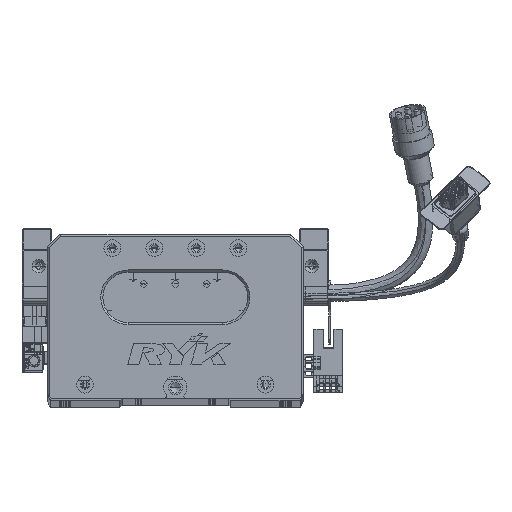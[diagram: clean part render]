
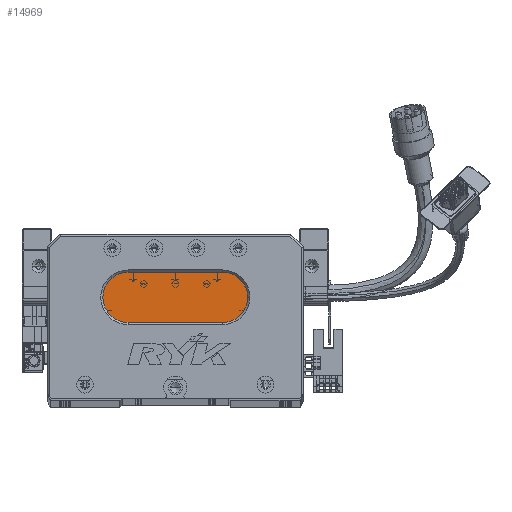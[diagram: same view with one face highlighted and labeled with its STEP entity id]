
A CAD part, top view. The second image highlights one B-rep face of the part: STEP entity #14969.
In plain terms, the highlighted planar face has unit normal (0, 0, 1) as drawn and (0, 0, -1) by its records, which use the part's own axes.
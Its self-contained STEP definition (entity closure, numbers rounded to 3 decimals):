
#3657 = EDGE_CURVE ( 'NONE', #59166, #42769, #17392, .T. ) ;
#14614 = DIRECTION ( 'NONE',  ( -1., 0., 0. ) ) ;
#14969 = ADVANCED_FACE ( 'NONE', ( #82860 ), #24656, .T. ) ;
#15357 = EDGE_CURVE ( 'NONE', #42769, #37127, #94101, .T. ) ;
#17392 = LINE ( 'NONE', #34023, #101901 ) ;
#18816 = AXIS2_PLACEMENT_3D ( 'NONE', #52973, #37747, #22194 ) ;
#18915 = CARTESIAN_POINT ( 'NONE',  ( 26.5, 48., 13. ) ) ;
#19149 = EDGE_CURVE ( 'NONE', #31677, #51722, #47409, .T. ) ;
#22194 = DIRECTION ( 'NONE',  ( -1., 0., 0. ) ) ;
#24656 = PLANE ( 'NONE',  #82692 ) ;
#24742 = DIRECTION ( 'NONE',  ( 0., 0., -1. ) ) ;
#31677 = VERTEX_POINT ( 'NONE', #80535 ) ;
#33005 = DIRECTION ( 'NONE',  ( 1., 0., 0. ) ) ;
#33853 = DIRECTION ( 'NONE',  ( -1., 0., 0. ) ) ;
#34023 = CARTESIAN_POINT ( 'NONE',  ( 83.5, 60., 13. ) ) ;
#34923 = EDGE_LOOP ( 'NONE', ( #101975, #57624, #48689, #59595, #58918 ) ) ;
#37127 = VERTEX_POINT ( 'NONE', #76386 ) ;
#37654 = DIRECTION ( 'NONE',  ( -1., 0., 0. ) ) ;
#37747 = DIRECTION ( 'NONE',  ( 0., 0., -1. ) ) ;
#42769 = VERTEX_POINT ( 'NONE', #44875 ) ;
#43378 = CARTESIAN_POINT ( 'NONE',  ( 38.5, 60., 13. ) ) ;
#44875 = CARTESIAN_POINT ( 'NONE',  ( 83.5, 60., 13. ) ) ;
#46142 = AXIS2_PLACEMENT_3D ( 'NONE', #72374, #24742, #48386 ) ;
#47409 = CIRCLE ( 'NONE', #18816, 12. ) ;
#48386 = DIRECTION ( 'NONE',  ( -1., 0., 0. ) ) ;
#48689 = ORIENTED_EDGE ( 'NONE', *, *, #19149, .T. ) ;
#51722 = VERTEX_POINT ( 'NONE', #18915 ) ;
#52973 = CARTESIAN_POINT ( 'NONE',  ( 38.5, 48., 13. ) ) ;
#57433 = EDGE_CURVE ( 'NONE', #51722, #59166, #100878, .T. ) ;
#57624 = ORIENTED_EDGE ( 'NONE', *, *, #70194, .T. ) ;
#58918 = ORIENTED_EDGE ( 'NONE', *, *, #3657, .T. ) ;
#59166 = VERTEX_POINT ( 'NONE', #43378 ) ;
#59595 = ORIENTED_EDGE ( 'NONE', *, *, #57433, .T. ) ;
#70194 = EDGE_CURVE ( 'NONE', #37127, #31677, #72989, .T. ) ;
#70437 = CARTESIAN_POINT ( 'NONE',  ( 83.5, 48., 13. ) ) ;
#72374 = CARTESIAN_POINT ( 'NONE',  ( 38.5, 48., 13. ) ) ;
#72989 = LINE ( 'NONE', #86438, #86766 ) ;
#73320 = AXIS2_PLACEMENT_3D ( 'NONE', #70437, #78508, #37654 ) ;
#76386 = CARTESIAN_POINT ( 'NONE',  ( 83.5, 36., 13. ) ) ;
#78508 = DIRECTION ( 'NONE',  ( 0., 0., -1. ) ) ;
#80535 = CARTESIAN_POINT ( 'NONE',  ( 38.5, 36., 13. ) ) ;
#81045 = CARTESIAN_POINT ( 'NONE',  ( 83.5, 48., 13. ) ) ;
#82692 = AXIS2_PLACEMENT_3D ( 'NONE', #81045, #88769, #33853 ) ;
#82860 = FACE_OUTER_BOUND ( 'NONE', #34923, .T. ) ;
#86438 = CARTESIAN_POINT ( 'NONE',  ( 83.5, 36., 13. ) ) ;
#86766 = VECTOR ( 'NONE', #14614, 1000. ) ;
#88769 = DIRECTION ( 'NONE',  ( 0., 0., -1. ) ) ;
#94101 = CIRCLE ( 'NONE', #73320, 12. ) ;
#100878 = CIRCLE ( 'NONE', #46142, 12. ) ;
#101901 = VECTOR ( 'NONE', #33005, 1000. ) ;
#101975 = ORIENTED_EDGE ( 'NONE', *, *, #15357, .T. ) ;
